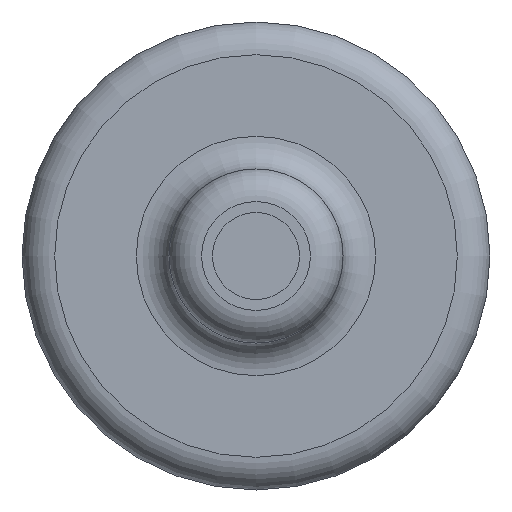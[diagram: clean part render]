
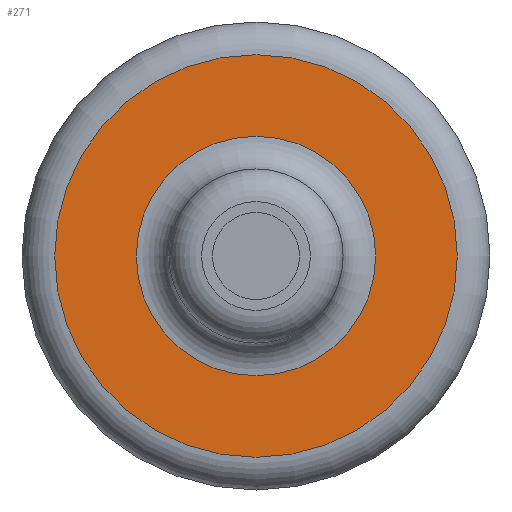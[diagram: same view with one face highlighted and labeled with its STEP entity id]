
A CAD part, left-side view. The second image highlights one B-rep face of the part: STEP entity #271.
In plain terms, the highlighted planar face has unit normal (-1, 0, 0).
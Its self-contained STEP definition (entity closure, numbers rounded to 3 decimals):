
#209=CARTESIAN_POINT('',(31.5,0.0,1.85));
#210=VERTEX_POINT('',#209);
#211=CARTESIAN_POINT('',(31.5,0.0,0.));
#212=DIRECTION('',(1.0,0.0,0.0));
#213=DIRECTION('',(0.0,0.0,-1.0));
#214=AXIS2_PLACEMENT_3D('',#211,#212,#213);
#215=CIRCLE('',#214,1.85);
#216=EDGE_CURVE('',#210,#210,#215,.T.);
#252=CARTESIAN_POINT('',(31.5,0.0,1.475));
#253=DIRECTION('',(1.0,0.0,0.0));
#254=DIRECTION('',(0.0,0.0,-1.0));
#255=AXIS2_PLACEMENT_3D('',#252,#253,#254);
#256=PLANE('',#255);
#257=ORIENTED_EDGE('',*,*,#216,.F.);
#258=EDGE_LOOP('',(#257));
#259=FACE_OUTER_BOUND('',#258,.T.);
#260=CARTESIAN_POINT('',(31.5,0.,1.1));
#261=VERTEX_POINT('',#260);
#262=CARTESIAN_POINT('',(31.5,0.0,0.0));
#263=DIRECTION('',(-1.0,0.0,0.0));
#264=DIRECTION('',(0.0,0.0,-1.0));
#265=AXIS2_PLACEMENT_3D('',#262,#263,#264);
#266=CIRCLE('',#265,1.1);
#267=EDGE_CURVE('',#261,#261,#266,.T.);
#268=ORIENTED_EDGE('',*,*,#267,.F.);
#269=EDGE_LOOP('',(#268));
#270=FACE_BOUND('',#269,.T.);
#271=ADVANCED_FACE('',(#259,#270),#256,.F.);
